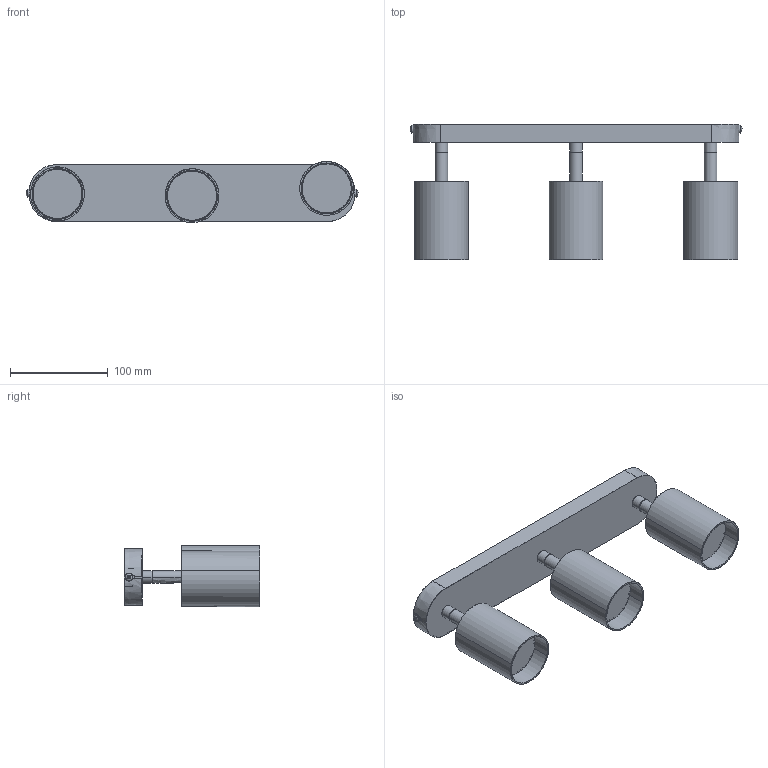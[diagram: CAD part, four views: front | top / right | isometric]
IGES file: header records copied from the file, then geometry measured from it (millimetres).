
Start section: SolidWorks IGES file using analytic representation for surfaces
Global section: file name: E:\3D lampy\Eye spot\Eye spot III\Eye spot III.IGS; native system: SolidWorks 2016; preprocessor: SolidWorks 2016; author: Asia; date: 170517.113132; units: millimetre
Bounding box: 339.13 x 138.59 x 62.72 mm (x, y, z)
Surface area: 214972.9 mm2 (no closed solid volume)
Topology: 0 solids, 0 shells, 627 faces, 11250 edges, 11193 vertices
Faces by surface type: revolution 334, bspline 293
